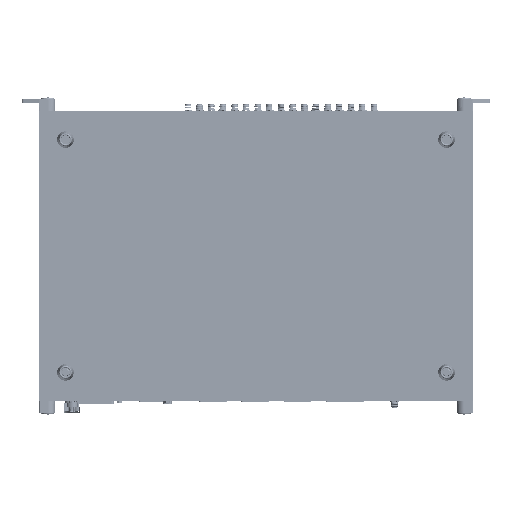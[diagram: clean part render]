
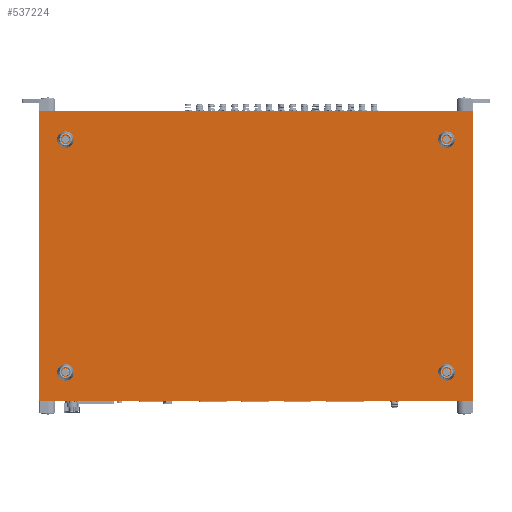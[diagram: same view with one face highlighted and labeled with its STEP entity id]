
A CAD part, front view. The second image highlights one B-rep face of the part: STEP entity #537224.
In plain terms, the highlighted planar face has unit normal (0, -1, 0).
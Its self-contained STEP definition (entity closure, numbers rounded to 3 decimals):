
#5494 = CARTESIAN_POINT ( 'NONE',  ( -195.5, -43.8, -120.5 ) ) ;
#44852 = EDGE_LOOP ( 'NONE', ( #67661 ) ) ;
#66042 = LINE ( 'NONE', #646300, #736080 ) ;
#66068 = CARTESIAN_POINT ( 'NONE',  ( 172., -43.8, -93.35 ) ) ;
#67661 = ORIENTED_EDGE ( 'NONE', *, *, #118765, .T. ) ;
#78868 = CARTESIAN_POINT ( 'NONE',  ( -172., -43.8, 116.65 ) ) ;
#86451 = VERTEX_POINT ( 'NONE', #78868 ) ;
#101105 = VECTOR ( 'NONE', #724502, 1000. ) ;
#103278 = ORIENTED_EDGE ( 'NONE', *, *, #432191, .T. ) ;
#118765 = EDGE_CURVE ( 'NONE', #86451, #86451, #270217, .T. ) ;
#123429 = AXIS2_PLACEMENT_3D ( 'NONE', #129669, #307532, #551027 ) ;
#128574 = DIRECTION ( 'NONE',  ( 0., 0., 1. ) ) ;
#129669 = CARTESIAN_POINT ( 'NONE',  ( 172., -43.8, -95. ) ) ;
#130565 = CARTESIAN_POINT ( 'NONE',  ( 172., -43.8, 116.65 ) ) ;
#136953 = CARTESIAN_POINT ( 'NONE',  ( -172., -43.8, 115. ) ) ;
#146656 = CARTESIAN_POINT ( 'NONE',  ( 195.5, -43.8, 140.5 ) ) ;
#155299 = FACE_BOUND ( 'NONE', #630567, .T. ) ;
#157942 = DIRECTION ( 'NONE',  ( 0., 0., 1. ) ) ;
#167777 = VERTEX_POINT ( 'NONE', #581531 ) ;
#188631 = VERTEX_POINT ( 'NONE', #130565 ) ;
#198590 = LINE ( 'NONE', #5494, #101105 ) ;
#201915 = DIRECTION ( 'NONE',  ( 0., 1., 0. ) ) ;
#221560 = AXIS2_PLACEMENT_3D ( 'NONE', #445422, #201915, #333143 ) ;
#242062 = VERTEX_POINT ( 'NONE', #146656 ) ;
#270217 = CIRCLE ( 'NONE', #406118, 1.65 ) ;
#273957 = CARTESIAN_POINT ( 'NONE',  ( 172., -43.8, 115. ) ) ;
#294342 = VERTEX_POINT ( 'NONE', #66068 ) ;
#305385 = VERTEX_POINT ( 'NONE', #713274 ) ;
#307532 = DIRECTION ( 'NONE',  ( 0., 1., 0. ) ) ;
#315304 = CARTESIAN_POINT ( 'NONE',  ( -195.5, -43.8, -120.5 ) ) ;
#326105 = ORIENTED_EDGE ( 'NONE', *, *, #397079, .T. ) ;
#333143 = DIRECTION ( 'NONE',  ( 0., 0., 1. ) ) ;
#355639 = EDGE_LOOP ( 'NONE', ( #422585, #365240, #754357, #702839 ) ) ;
#362099 = DIRECTION ( 'NONE',  ( 0., 0., -1. ) ) ;
#365240 = ORIENTED_EDGE ( 'NONE', *, *, #600656, .F. ) ;
#371505 = VECTOR ( 'NONE', #362099, 1000. ) ;
#375915 = DIRECTION ( 'NONE',  ( 0., 1., 0. ) ) ;
#376494 = EDGE_CURVE ( 'NONE', #242062, #746978, #551323, .T. ) ;
#377303 = CARTESIAN_POINT ( 'NONE',  ( 195.5, -43.8, 140.5 ) ) ;
#381199 = ORIENTED_EDGE ( 'NONE', *, *, #558527, .T. ) ;
#391025 = VECTOR ( 'NONE', #442708, 1000. ) ;
#397079 = EDGE_CURVE ( 'NONE', #188631, #188631, #573229, .T. ) ;
#400069 = EDGE_CURVE ( 'NONE', #305385, #242062, #431270, .T. ) ;
#406118 = AXIS2_PLACEMENT_3D ( 'NONE', #136953, #717132, #720933 ) ;
#422585 = ORIENTED_EDGE ( 'NONE', *, *, #640665, .F. ) ;
#431270 = LINE ( 'NONE', #554913, #391025 ) ;
#432191 = EDGE_CURVE ( 'NONE', #167777, #167777, #653473, .T. ) ;
#442708 = DIRECTION ( 'NONE',  ( 1., 0., 0. ) ) ;
#445422 = CARTESIAN_POINT ( 'NONE',  ( 0., -43.8, 10. ) ) ;
#456926 = CIRCLE ( 'NONE', #123429, 1.65 ) ;
#484347 = CARTESIAN_POINT ( 'NONE',  ( -172., -43.8, -95. ) ) ;
#511421 = AXIS2_PLACEMENT_3D ( 'NONE', #273957, #745712, #157942 ) ;
#537224 = ADVANCED_FACE ( 'NONE', ( #685026, #743070, #155299, #561457, #731643 ), #739235, .F. ) ;
#551027 = DIRECTION ( 'NONE',  ( 0., 0., 1. ) ) ;
#551323 = LINE ( 'NONE', #377303, #371505 ) ;
#554913 = CARTESIAN_POINT ( 'NONE',  ( -195.5, -43.8, 140.5 ) ) ;
#558527 = EDGE_CURVE ( 'NONE', #294342, #294342, #456926, .T. ) ;
#561457 = FACE_BOUND ( 'NONE', #44852, .T. ) ;
#573229 = CIRCLE ( 'NONE', #511421, 1.65 ) ;
#581531 = CARTESIAN_POINT ( 'NONE',  ( -172., -43.8, -93.35 ) ) ;
#591684 = AXIS2_PLACEMENT_3D ( 'NONE', #484347, #375915, #128574 ) ;
#592060 = DIRECTION ( 'NONE',  ( -1., 0., 0. ) ) ;
#600656 = EDGE_CURVE ( 'NONE', #746978, #645592, #66042, .T. ) ;
#630567 = EDGE_LOOP ( 'NONE', ( #326105 ) ) ;
#639108 = CARTESIAN_POINT ( 'NONE',  ( 195.5, -43.8, -120.5 ) ) ;
#640665 = EDGE_CURVE ( 'NONE', #645592, #305385, #198590, .T. ) ;
#645592 = VERTEX_POINT ( 'NONE', #315304 ) ;
#646300 = CARTESIAN_POINT ( 'NONE',  ( -195.5, -43.8, -120.5 ) ) ;
#653473 = CIRCLE ( 'NONE', #591684, 1.65 ) ;
#666559 = EDGE_LOOP ( 'NONE', ( #381199 ) ) ;
#685026 = FACE_BOUND ( 'NONE', #692194, .T. ) ;
#692194 = EDGE_LOOP ( 'NONE', ( #103278 ) ) ;
#702839 = ORIENTED_EDGE ( 'NONE', *, *, #400069, .F. ) ;
#713274 = CARTESIAN_POINT ( 'NONE',  ( -195.5, -43.8, 140.5 ) ) ;
#717132 = DIRECTION ( 'NONE',  ( 0., 1., 0. ) ) ;
#720933 = DIRECTION ( 'NONE',  ( 0., 0., 1. ) ) ;
#724502 = DIRECTION ( 'NONE',  ( 0., 0., 1. ) ) ;
#731643 = FACE_OUTER_BOUND ( 'NONE', #355639, .T. ) ;
#736080 = VECTOR ( 'NONE', #592060, 1000. ) ;
#739235 = PLANE ( 'NONE',  #221560 ) ;
#743070 = FACE_BOUND ( 'NONE', #666559, .T. ) ;
#745712 = DIRECTION ( 'NONE',  ( 0., 1., 0. ) ) ;
#746978 = VERTEX_POINT ( 'NONE', #639108 ) ;
#754357 = ORIENTED_EDGE ( 'NONE', *, *, #376494, .F. ) ;
